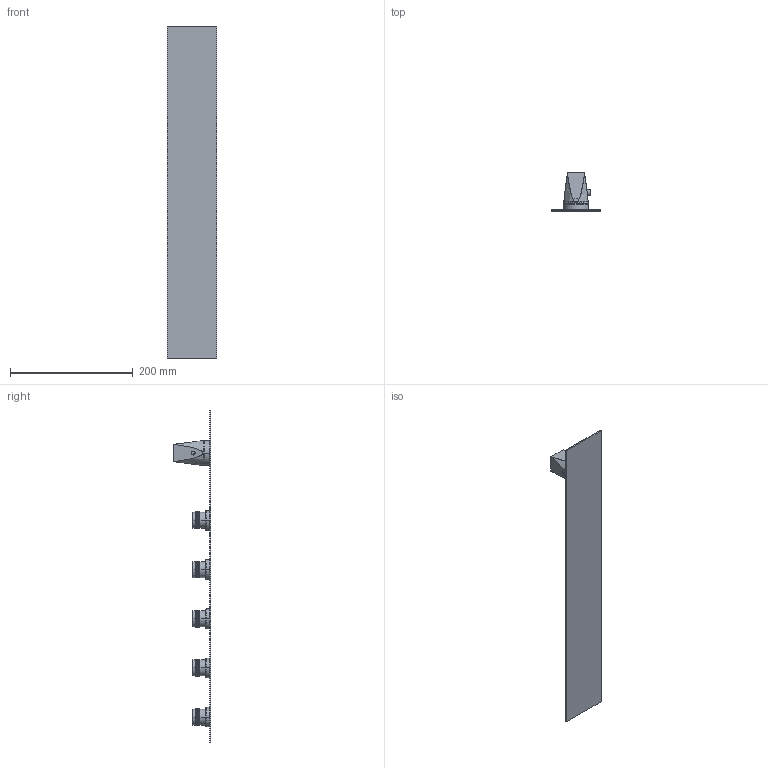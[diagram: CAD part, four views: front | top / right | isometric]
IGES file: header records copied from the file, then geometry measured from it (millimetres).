
Start section:  PTC IGES file: 49600V5.igs
Global section: file name: 49600V5.igs; native system: Creo Parametric by PTC Inc.; preprocessor: 2022014; author: carloff; organization: Unknown; date: 20230919.133400; units: millimetre
Bounding box: 80 x 61.6 x 540 mm (x, y, z)
Surface area: 115910.6 mm2 (no closed solid volume)
Topology: 0 solids, 0 shells, 8282 faces, 41250 edges, 41236 vertices
Faces by surface type: bspline 6451, revolution 1831
